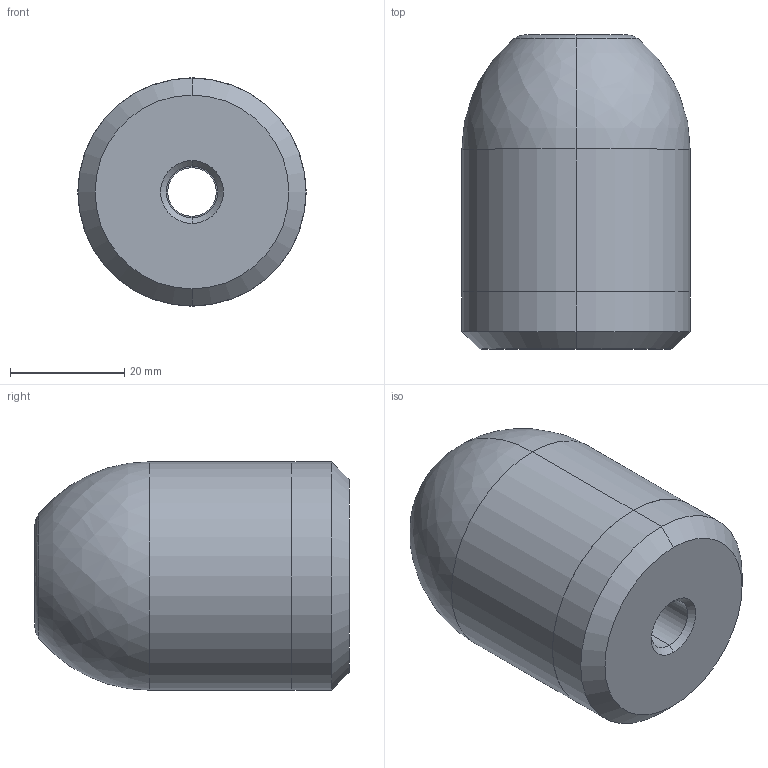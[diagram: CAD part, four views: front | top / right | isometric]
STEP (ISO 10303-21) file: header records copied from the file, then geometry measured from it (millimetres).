
FILE_DESCRIPTION(('CATIA V5 STEP Exchange'),'2;1');
FILE_NAME('C:\Users\Utente\Desktop\IO LAVORO\3D X SITO CF\X SITO\700\700-40-55.stp','2020-11-29T12:12:56+00:00',('none'),('none'),'CATIA Version 5 Release 20 GA (IN-10)','CATIA V5 STEP AP203','none');
FILE_SCHEMA(('CONFIG_CONTROL_DESIGN'));
Length unit declared in the file: millimetre
Products named in the file (1): 700-40-55
Bounding box: 40 x 55 x 40 mm (x, y, z)
Volume: 58662.8 mm3; surface area: 9524 mm2
Topology: 1 solids, 1 shells, 22 faces, 44 edges, 26 vertices
Faces by surface type: cylinder 8, cone 6, plane 4, torus 2, revolution 2
Entity records: 681 total; most frequent: CARTESIAN_POINT 186, ORIENTED_EDGE 88, DIRECTION 83, AXIS2_PLACEMENT_3D 48, EDGE_CURVE 44, CIRCLE 27, EDGE_LOOP 26, VERTEX_POINT 26
